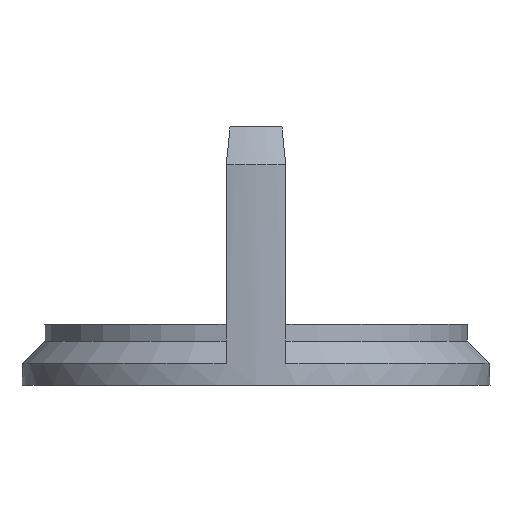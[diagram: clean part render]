
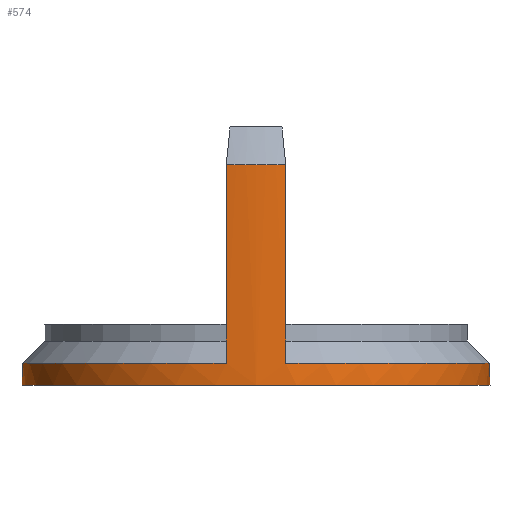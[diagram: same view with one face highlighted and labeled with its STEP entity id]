
A CAD part, left-side view. The second image highlights one B-rep face of the part: STEP entity #574.
In plain terms, the highlighted cylindrical face has radius 42.5 mm (diameter 85 mm), a full revolution.
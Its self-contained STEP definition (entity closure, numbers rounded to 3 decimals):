
#23=CYLINDRICAL_SURFACE('',#645,42.5);
#77=FACE_OUTER_BOUND('',#108,.T.);
#108=EDGE_LOOP('',(#492,#493,#494,#495,#496,#497,#498,#499,#500,#501,#502,
#503));
#137=LINE('',#1002,#172);
#140=LINE('',#1017,#175);
#143=LINE('',#1031,#178);
#147=LINE('',#1048,#182);
#148=LINE('',#1050,#183);
#172=VECTOR('',#759,10.);
#175=VECTOR('',#772,10.);
#178=VECTOR('',#779,10.);
#182=VECTOR('',#793,10.);
#183=VECTOR('',#796,42.5);
#188=CIRCLE('',#601,42.5);
#203=CIRCLE('',#624,42.5);
#204=CIRCLE('',#625,42.5);
#211=CIRCLE('',#644,42.5);
#212=CIRCLE('',#646,42.5);
#213=CIRCLE('',#647,42.5);
#222=VERTEX_POINT('',#837);
#224=VERTEX_POINT('',#842);
#249=VERTEX_POINT('',#937);
#251=VERTEX_POINT('',#943);
#252=VERTEX_POINT('',#947);
#261=VERTEX_POINT('',#998);
#265=VERTEX_POINT('',#1016);
#268=VERTEX_POINT('',#1030);
#272=VERTEX_POINT('',#1044);
#273=VERTEX_POINT('',#1047);
#281=EDGE_CURVE('',#222,#224,#188,.T.);
#318=EDGE_CURVE('',#251,#252,#203,.T.);
#319=EDGE_CURVE('',#252,#249,#204,.T.);
#334=EDGE_CURVE('',#261,#251,#137,.T.);
#340=EDGE_CURVE('',#224,#265,#140,.T.);
#345=EDGE_CURVE('',#249,#268,#143,.T.);
#351=EDGE_CURVE('',#272,#272,#211,.T.);
#352=EDGE_CURVE('',#273,#222,#147,.T.);
#353=EDGE_CURVE('',#273,#268,#212,.T.);
#354=EDGE_CURVE('',#252,#272,#148,.T.);
#355=EDGE_CURVE('',#261,#265,#213,.T.);
#492=ORIENTED_EDGE('',*,*,#352,.F.);
#493=ORIENTED_EDGE('',*,*,#353,.T.);
#494=ORIENTED_EDGE('',*,*,#345,.F.);
#495=ORIENTED_EDGE('',*,*,#319,.F.);
#496=ORIENTED_EDGE('',*,*,#354,.T.);
#497=ORIENTED_EDGE('',*,*,#351,.T.);
#498=ORIENTED_EDGE('',*,*,#354,.F.);
#499=ORIENTED_EDGE('',*,*,#318,.F.);
#500=ORIENTED_EDGE('',*,*,#334,.F.);
#501=ORIENTED_EDGE('',*,*,#355,.T.);
#502=ORIENTED_EDGE('',*,*,#340,.F.);
#503=ORIENTED_EDGE('',*,*,#281,.F.);
#574=ADVANCED_FACE('',(#77),#23,.T.);
#601=AXIS2_PLACEMENT_3D('',#843,#674,#675);
#624=AXIS2_PLACEMENT_3D('',#948,#733,#734);
#625=AXIS2_PLACEMENT_3D('',#949,#735,#736);
#644=AXIS2_PLACEMENT_3D('',#1045,#789,#790);
#645=AXIS2_PLACEMENT_3D('',#1046,#791,#792);
#646=AXIS2_PLACEMENT_3D('',#1049,#794,#795);
#647=AXIS2_PLACEMENT_3D('',#1051,#797,#798);
#674=DIRECTION('center_axis',(0.,0.,1.));
#675=DIRECTION('ref_axis',(1.,0.,0.));
#733=DIRECTION('center_axis',(0.,0.,1.));
#734=DIRECTION('ref_axis',(1.,0.,0.));
#735=DIRECTION('center_axis',(0.,0.,1.));
#736=DIRECTION('ref_axis',(1.,0.,0.));
#759=DIRECTION('',(0.,0.,1.));
#772=DIRECTION('',(0.,0.,-1.));
#779=DIRECTION('',(0.,0.,-1.));
#789=DIRECTION('center_axis',(0.,0.,1.));
#790=DIRECTION('ref_axis',(1.,0.,0.));
#791=DIRECTION('center_axis',(0.,0.,-1.));
#792=DIRECTION('ref_axis',(1.,0.,0.));
#793=DIRECTION('',(0.,0.,1.));
#794=DIRECTION('center_axis',(0.,0.,-1.));
#795=DIRECTION('ref_axis',(1.,0.,0.));
#796=DIRECTION('',(0.,0.,-1.));
#797=DIRECTION('center_axis',(0.,0.,-1.));
#798=DIRECTION('ref_axis',(1.,0.,0.));
#837=CARTESIAN_POINT('',(48.719,32.334,199.047));
#842=CARTESIAN_POINT('',(48.719,43.139,199.047));
#843=CARTESIAN_POINT('Origin',(6.564,37.737,199.047));
#937=CARTESIAN_POINT('',(-35.592,32.334,199.047));
#943=CARTESIAN_POINT('',(-35.592,43.139,199.047));
#947=CARTESIAN_POINT('',(-35.936,37.737,199.047));
#948=CARTESIAN_POINT('Origin',(6.564,37.737,199.047));
#949=CARTESIAN_POINT('Origin',(6.564,37.737,199.047));
#998=CARTESIAN_POINT('',(-35.592,43.139,163.047));
#1002=CARTESIAN_POINT('',(-35.592,43.139,204.047));
#1016=CARTESIAN_POINT('',(48.719,43.139,163.047));
#1017=CARTESIAN_POINT('',(48.719,43.139,204.047));
#1030=CARTESIAN_POINT('',(-35.592,32.334,163.047));
#1031=CARTESIAN_POINT('',(-35.592,32.334,204.047));
#1044=CARTESIAN_POINT('',(-35.936,37.737,159.047));
#1045=CARTESIAN_POINT('Origin',(6.564,37.737,159.047));
#1046=CARTESIAN_POINT('Origin',(6.564,37.737,204.047));
#1047=CARTESIAN_POINT('',(48.719,32.334,163.047));
#1048=CARTESIAN_POINT('',(48.719,32.334,204.047));
#1049=CARTESIAN_POINT('Origin',(6.564,37.737,163.047));
#1050=CARTESIAN_POINT('',(-35.936,37.737,204.047));
#1051=CARTESIAN_POINT('Origin',(6.564,37.737,163.047));
